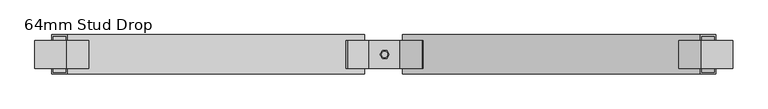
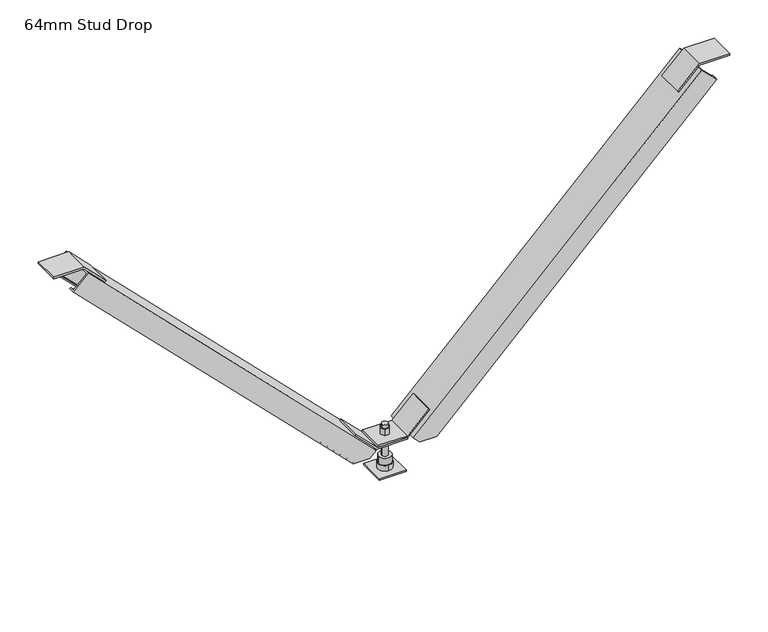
"""IFC4 building model written with IfcOpenShell, lengths in millimetres: beam geometry, Vertibrace Standard Brace : 64mm Stud Drop."""

from ifc_helpers import new_model, si_unit, frame, origin, origin_with_axes, place, context, project, spatial, polyline, circle_curve, outline, extrude, faceted_brep, source, transform, mapped, element, save
from ifc_brep_helpers import plane_surface, cylinder_surface, advanced_brep


def beam_64mm_stud_drop_5261cdfa(model_context):
    return source(origin(), model_context, "Body", "SolidModel", [
        extrude(outline(polyline([(547.0013294, 513.8434194), (547.0013294, 563.8278886), (550.0, 563.8278886), (550.0, 512.6013294), (513.7773526, 476.378682), (511.6569723, 478.4990623), (547.0013294, 513.8434194)])), frame((0.0, -22.5, 0.0), z_axis=(0.0, 1.0, 0.0), x_axis=(0.0, 0.0, 1.0)), (0.0, 0.0, 1.0), 45.0),
        extrude(outline(polyline([(547.0013294, -516.535654), (511.6569723, -481.1912969), (513.7773526, -479.0709166), (550.0, -515.293564), (550.0, -566.5201232), (547.0013294, -566.5201232), (547.0013294, -516.535654)])), frame((0.0, -22.5, 0.0), z_axis=(0.0, 1.0, 0.0), x_axis=(0.0, 0.0, 1.0)), (0.0, 0.0, 1.0), 45.0),
        extrude(outline(polyline([(62.6986706, 24.9922346), (62.6986706, -24.9922346), (59.7, -24.9922346), (59.7, 26.2343246), (95.9226474, 62.456972), (98.0430277, 60.3365917), (62.6986706, 24.9922346)])), frame((0.0, -22.5, 0.0), z_axis=(0.0, 1.0, 0.0), x_axis=(0.0, 0.0, 1.0)), (0.0, 0.0, 1.0), 45.0),
        extrude(outline(polyline([(59.6986706, -24.9922346), (95.0430277, -60.3365917), (92.9226474, -62.456972), (56.7, -26.2343246), (56.7, 24.9922346), (59.6986706, 24.9922346), (59.6986706, -24.9922346)])), frame((0.0, -22.5, 0.0), z_axis=(0.0, 1.0, 0.0), x_axis=(0.0, 0.0, 1.0)), (0.0, 0.0, 1.0), 45.0),
        extrude(outline(polyline([(22.5, 22.5), (22.5, -22.5), (-22.5, -22.5), (-22.5, 22.5), (22.5, 22.5)])), origin_with_axes(), (0.0, 0.0, 1.0), 3.0),
        advanced_brep(
        [(-5.0, 0.0, -10.0), (5.0, 0.0, -10.0), (-5.0, 0.0, 80.0), (5.0, 0.0, 80.0), (5.0, 0.0, 3.0), (-5.0, 0.0, 3.0), (-5.0, 0.0, 74.4), (5.0, 0.0, 74.4), (-5.0, 0.0, 25.0), (5.0, 0.0, 25.0), (5.0, 0.0, 50.0), (-5.0, 0.0, 50.0), (5.0, 0.0, 62.7), (-5.0, 0.0, 62.7), (-5.0, 0.0, 56.7), (5.0, 0.0, 56.7), (-10.5, 0.0, 25.0), (10.5, 0.0, 25.0), (-10.5, 0.0, 13.0), (10.5, 0.0, 13.0), (0.0, -12.0, 13.0), (0.0, 12.0, 13.0), (3.75, 6.4951905, 74.4), (-3.75, 6.4951905, 74.4), (-7.5, 0.0, 74.4), (-3.75, -6.4951905, 74.4), (3.75, -6.4951905, 74.4), (7.5, 0.0, 74.4), (3.75, 6.4951905, 62.7), (7.5, 0.0, 62.7), (3.75, -6.4951905, 62.7), (-3.75, -6.4951905, 62.7), (-7.5, 0.0, 62.7), (-3.75, 6.4951905, 62.7), (-10.9696551, 0.0, 56.7), (-5.4848276, -9.5, 56.7), (5.4848276, -9.5, 56.7), (10.9696551, 0.0, 56.7), (5.4848276, 9.5, 56.7), (-5.4848276, 9.5, 56.7), (-10.9696551, 0.0, 50.0), (-5.4848276, 9.5, 50.0), (5.4848276, 9.5, 50.0), (10.9696551, 0.0, 50.0), (5.4848276, -9.5, 50.0), (-5.4848276, -9.5, 50.0), (0.0, -12.0, 3.0), (0.0, 12.0, 3.0)],
        [
            (0, 1, circle_curve(frame((0.0, 0.0, -10.0), z_axis=(0.0, 0.0, -1.0), x_axis=(1.0, 0.0, 0.0)), 5.0)),
            (1, 0, circle_curve(frame((0.0, 0.0, -10.0), z_axis=(0.0, 0.0, -1.0), x_axis=(1.0, 0.0, 0.0)), 5.0)),
            (2, 3, circle_curve(frame((0.0, 0.0, 80.0), z_axis=(0.0, 0.0, 1.0), x_axis=(1.0, 0.0, 0.0)), 5.0)),
            (3, 2, circle_curve(frame((0.0, 0.0, 80.0), z_axis=(0.0, 0.0, 1.0), x_axis=(1.0, 0.0, 0.0)), 5.0)),
            (1, 4),
            (4, 5, circle_curve(frame((0.0, 0.0, 3.0), z_axis=(0.0, 0.0, -1.0), x_axis=(1.0, 0.0, 0.0)), 5.0)),
            (5, 0),
            (2, 6),
            (6, 7, circle_curve(frame((0.0, 0.0, 74.4), z_axis=(0.0, 0.0, 1.0), x_axis=(1.0, 0.0, 0.0)), 5.0)),
            (7, 3),
            (8, 9, circle_curve(frame((0.0, 0.0, 25.0), z_axis=(0.0, 0.0, 1.0), x_axis=(1.0, 0.0, 0.0)), 5.0)),
            (9, 10),
            (10, 11, circle_curve(frame((0.0, 0.0, 50.0), z_axis=(0.0, 0.0, -1.0), x_axis=(1.0, 0.0, 0.0)), 5.0)),
            (11, 8),
            (12, 13, circle_curve(frame((0.0, 0.0, 62.7), z_axis=(0.0, 0.0, -1.0), x_axis=(1.0, 0.0, 0.0)), 5.0)),
            (13, 14),
            (14, 15, circle_curve(frame((0.0, 0.0, 56.7), z_axis=(0.0, 0.0, 1.0), x_axis=(1.0, 0.0, 0.0)), 5.0)),
            (15, 12),
            (5, 4, circle_curve(frame((0.0, 0.0, 3.0), z_axis=(0.0, 0.0, -1.0), x_axis=(1.0, 0.0, 0.0)), 5.0)),
            (7, 6, circle_curve(frame((0.0, 0.0, 74.4), z_axis=(0.0, 0.0, 1.0), x_axis=(1.0, 0.0, 0.0)), 5.0)),
            (9, 8, circle_curve(frame((0.0, 0.0, 25.0), z_axis=(0.0, 0.0, 1.0), x_axis=(1.0, 0.0, 0.0)), 5.0)),
            (11, 10, circle_curve(frame((0.0, 0.0, 50.0), z_axis=(0.0, 0.0, -1.0), x_axis=(1.0, 0.0, 0.0)), 5.0)),
            (13, 12, circle_curve(frame((0.0, 0.0, 62.7), z_axis=(0.0, 0.0, -1.0), x_axis=(1.0, 0.0, 0.0)), 5.0)),
            (15, 14, circle_curve(frame((0.0, 0.0, 56.7), z_axis=(0.0, 0.0, 1.0), x_axis=(1.0, 0.0, 0.0)), 5.0)),
            (16, 17, circle_curve(frame((0.0, 0.0, 25.0), z_axis=(0.0, 0.0, 1.0), x_axis=(1.0, 0.0, 0.0)), 10.5)),
            (17, 16, circle_curve(frame((0.0, 0.0, 25.0), z_axis=(0.0, 0.0, 1.0), x_axis=(1.0, 0.0, 0.0)), 10.5)),
            (16, 18),
            (18, 19, circle_curve(frame((0.0, 0.0, 13.0), z_axis=(0.0, 0.0, 1.0), x_axis=(1.0, 0.0, 0.0)), 10.5)),
            (19, 17),
            (19, 18, circle_curve(frame((0.0, 0.0, 13.0), z_axis=(0.0, 0.0, 1.0), x_axis=(1.0, 0.0, 0.0)), 10.5)),
            (20, 21, circle_curve(frame((0.0, 0.0, 13.0), z_axis=(0.0, 0.0, 1.0), x_axis=(0.0, 1.0, 0.0)), 12.0)),
            (21, 20, circle_curve(frame((0.0, 0.0, 13.0), z_axis=(0.0, 0.0, 1.0), x_axis=(0.0, 1.0, 0.0)), 12.0)),
            (22, 23),
            (23, 24),
            (24, 25),
            (25, 26),
            (26, 27),
            (27, 22),
            (28, 29),
            (29, 30),
            (30, 31),
            (31, 32),
            (32, 33),
            (33, 28),
            (22, 28),
            (33, 23),
            (32, 24),
            (31, 25),
            (30, 26),
            (29, 27),
            (34, 35),
            (35, 36),
            (36, 37),
            (37, 38),
            (38, 39),
            (39, 34),
            (40, 41),
            (41, 42),
            (42, 43),
            (43, 44),
            (44, 45),
            (45, 40),
            (34, 40),
            (45, 35),
            (44, 36),
            (43, 37),
            (42, 38),
            (41, 39),
            (46, 47, circle_curve(frame((0.0, 0.0, 3.0), z_axis=(0.0, 0.0, -1.0), x_axis=(0.0, 1.0, 0.0)), 12.0)),
            (47, 46, circle_curve(frame((0.0, 0.0, 3.0), z_axis=(0.0, 0.0, -1.0), x_axis=(0.0, 1.0, 0.0)), 12.0)),
            (47, 21),
            (20, 46),
        ],
        [
            plane_surface(frame((5.0, 0.0, -10.0), z_axis=(0.0, 0.0, -1.0), x_axis=(0.0, -1.0, 0.0))),
            plane_surface(frame((5.0, 0.0, 80.0), z_axis=(0.0, 0.0, 1.0), x_axis=(0.0, 1.0, 0.0))),
            cylinder_surface(frame((0.0, 0.0, -10.0), z_axis=(0.0, 0.0, 1.0), x_axis=(1.0, 0.0, 0.0)), 5.0),
            plane_surface(frame((10.5, 0.0, 25.0), z_axis=(0.0, 0.0, 1.0), x_axis=(0.0, 1.0, 0.0))),
            cylinder_surface(frame((0.0, 0.0, 13.0), z_axis=(0.0, 0.0, 1.0), x_axis=(1.0, 0.0, 0.0)), 10.5),
            plane_surface(frame((0.0, 12.0, 13.0), z_axis=(0.0, 0.0, 1.0), x_axis=(-1.0, 0.0, 0.0))),
            plane_surface(frame((3.75, 6.4951905, 74.4), z_axis=(0.0, 0.0, 1.0), x_axis=(-1.0, 0.0, 0.0))),
            plane_surface(frame((3.75, 6.4951905, 62.7), z_axis=(0.0, 0.0, -1.0), x_axis=(1.0, 0.0, 0.0))),
            plane_surface(frame((3.75, 6.4951905, 74.4), z_axis=(0.0, 1.0, 0.0), x_axis=(0.0, 0.0, -1.0))),
            plane_surface(frame((-3.75, 6.4951905, 74.4), z_axis=(-0.866025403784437, 0.5000000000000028, 0.0), x_axis=(0.0, 0.0, -1.0))),
            plane_surface(frame((-7.5, 0.0, 74.4), z_axis=(-0.8660254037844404, -0.4999999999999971, 0.0), x_axis=(0.0, 0.0, -1.0))),
            plane_surface(frame((-3.75, -6.4951905, 74.4), z_axis=(0.0, -1.0, 0.0), x_axis=(0.0, 0.0, -1.0))),
            plane_surface(frame((3.75, -6.4951905, 74.4), z_axis=(0.8660254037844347, -0.500000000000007, 0.0), x_axis=(0.0, 0.0, -1.0))),
            plane_surface(frame((7.5, 0.0, 74.4), z_axis=(0.8660254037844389, 0.49999999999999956, 0.0), x_axis=(0.0, 0.0, -1.0))),
            plane_surface(frame((-10.9696551, 0.0, 56.7), z_axis=(0.0, 0.0, 1.0), x_axis=(0.49999999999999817, -0.8660254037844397, 0.0))),
            plane_surface(frame((-10.9696551, 0.0, 50.0), z_axis=(0.0, 0.0, -1.0), x_axis=(-0.49999999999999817, 0.8660254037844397, 0.0))),
            plane_surface(frame((-10.9696551, 0.0, 56.7), z_axis=(-0.8660254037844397, -0.49999999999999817, 0.0), x_axis=(0.0, 0.0, -1.0))),
            plane_surface(frame((-5.4848276, -9.5, 56.7), z_axis=(0.0, -1.0, 0.0), x_axis=(0.0, 0.0, -1.0))),
            plane_surface(frame((5.4848276, -9.5, 56.7), z_axis=(0.8660254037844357, -0.5000000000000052, 0.0), x_axis=(0.0, 0.0, -1.0))),
            plane_surface(frame((10.9696551, 0.0, 56.7), z_axis=(0.8660254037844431, 0.49999999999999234, 0.0), x_axis=(0.0, 0.0, -1.0))),
            plane_surface(frame((5.4848276, 9.5, 56.7), z_axis=(0.0, 1.0, 0.0), x_axis=(0.0, 0.0, -1.0))),
            plane_surface(frame((-5.4848276, 9.5, 56.7), z_axis=(-0.866025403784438, 0.5000000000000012, 0.0), x_axis=(0.0, 0.0, -1.0))),
            plane_surface(frame((0.0, 12.0, 3.0), z_axis=(0.0, 0.0, -1.0), x_axis=(1.0, 0.0, 0.0))),
            cylinder_surface(frame((0.0, 0.0, 3.0), z_axis=(0.0, 0.0, 1.0), x_axis=(0.0, 1.0, 0.0)), 12.0),
        ],
        [
            (0, [[1, 2]]),
            (1, [[3, 4]]),
            (2, [[-2, 5, 6, 7]]),
            (2, [[-3, 8, 9, 10]]),
            (2, [[11, 12, 13, 14]]),
            (2, [[15, 16, 17, 18]]),
            (2, [[-1, -7, 19, -5]]),
            (2, [[-4, -10, 20, -8]]),
            (2, [[21, -14, 22, -12]]),
            (2, [[23, -18, 24, -16]]),
            (3, [[25, 26], [-11, -21]]),
            (4, [[-25, 27, 28, 29]]),
            (4, [[-26, -29, 30, -27]]),
            (5, [[31, 32], [-28, -30]]),
            (6, [[33, 34, 35, 36, 37, 38], [-9, -20]]),
            (7, [[39, 40, 41, 42, 43, 44], [-15, -23]]),
            (8, [[-33, 45, -44, 46]]),
            (9, [[-34, -46, -43, 47]]),
            (10, [[-35, -47, -42, 48]]),
            (11, [[-36, -48, -41, 49]]),
            (12, [[-37, -49, -40, 50]]),
            (13, [[-38, -50, -39, -45]]),
            (14, [[51, 52, 53, 54, 55, 56], [-17, -24]]),
            (15, [[57, 58, 59, 60, 61, 62], [-13, -22]]),
            (16, [[-51, 63, -62, 64]]),
            (17, [[-52, -64, -61, 65]]),
            (18, [[-53, -65, -60, 66]]),
            (19, [[-54, -66, -59, 67]]),
            (20, [[-55, -67, -58, 68]]),
            (21, [[-56, -68, -57, -63]]),
            (22, [[69, 70], [-6, -19]]),
            (23, [[-70, 71, -31, 72]]),
            (23, [[-69, -72, -32, -71]]),
        ],
    ),
        faceted_brep([(39.9343246, 30.0, 52.0), (39.9343246, 32.0, 52.0), (68.0317993, 32.0, 52.0), (68.0317993, 22.0, 52.0), (65.2033722, 22.0, 52.0), (65.2033722, 30.0, 52.0), (39.9343246, -32.0, 52.0), (39.9343246, -30.0, 52.0), (65.2033722, -30.0, 52.0), (65.2033722, -22.0, 52.0), (68.0317993, -22.0, 52.0), (68.0317993, -32.0, 52.0), (30.6485382, 30.0, 61.2857864), (30.6485382, -30.0, 61.2857864), (29.2343246, -32.0, 62.7), (29.2343246, 32.0, 62.7), (511.5343246, 32.0, 545.0), (511.5343246, -32.0, 545.0), (536.283062, -32.0, 520.2512627), (536.283062, -22.0, 520.2512627), (534.8688484, -22.0, 521.6654762), (534.8688484, -30.0, 521.6654762), (512.9485382, -30.0, 543.5857864), (512.9485382, 30.0, 543.5857864), (534.8688484, 30.0, 521.6654762), (534.8688484, 22.0, 521.6654762), (536.283062, 22.0, 520.2512627), (536.283062, 32.0, 520.2512627)], [[[0, 1, 2, 3, 4, 5]], [[6, 7, 8, 9, 10, 11]], [[12, 13, 7, 6, 14, 15, 1, 0]], [[16, 17, 18, 19, 20, 21, 22, 23, 24, 25, 26, 27]], [[16, 27, 2, 1, 15]], [[27, 26, 3, 2]], [[26, 25, 4, 3]], [[25, 24, 5, 4]], [[24, 23, 12, 0, 5]], [[13, 12, 23, 22]], [[22, 21, 8, 7, 13]], [[21, 20, 9, 8]], [[20, 19, 10, 9]], [[19, 18, 11, 10]], [[18, 17, 14, 6, 11]], [[15, 14, 17, 16]]]),
        faceted_brep([(-33.9485382, -30.0, 61.5857864), (-33.9485382, 30.0, 61.5857864), (-43.5343246, 30.0, 52.0), (-43.5343246, 32.0, 52.0), (-32.5343246, 32.0, 63.0), (-32.5343246, -32.0, 63.0), (-43.5343246, -32.0, 52.0), (-43.5343246, -30.0, 52.0), (-514.4883773, -32.0, 544.9540527), (-514.4883773, 32.0, 544.9540527), (-539.2371147, 32.0, 520.2053154), (-539.2371147, 22.0, 520.2053154), (-537.8229011, 22.0, 521.6195289), (-537.8229011, 30.0, 521.6195289), (-515.9025909, 30.0, 543.5398392), (-515.9025909, -30.0, 543.5398392), (-537.8229011, -30.0, 521.6195289), (-537.8229011, -22.0, 521.6195289), (-539.2371147, -22.0, 520.2053154), (-539.2371147, -32.0, 520.2053154), (-71.0317993, -32.0, 52.0), (-71.0317993, -22.0, 52.0), (-71.0317993, 32.0, 52.0), (-68.2033722, 30.0, 52.0), (-68.2033722, 22.0, 52.0), (-71.0317993, 22.0, 52.0), (-68.2033722, -22.0, 52.0), (-68.2033722, -30.0, 52.0)], [[[0, 1, 2, 3, 4, 5, 6, 7]], [[8, 9, 10, 11, 12, 13, 14, 15, 16, 17, 18, 19]], [[8, 19, 20, 6, 5]], [[19, 18, 21, 20]], [[10, 9, 4, 3, 22]], [[5, 4, 9, 8]], [[3, 2, 23, 24, 25, 22]], [[7, 6, 20, 21, 26, 27]], [[18, 17, 26, 21]], [[17, 16, 27, 26]], [[16, 15, 0, 7, 27]], [[1, 0, 15, 14]], [[14, 13, 23, 2, 1]], [[13, 12, 24, 23]], [[12, 11, 25, 24]], [[11, 10, 22, 25]]]),
    ])


if __name__ == "__main__":
    model = new_model("IFC4")
    model_context = context("Model", 3, world=origin())
    ifc_project = project(units=[si_unit("LENGTHUNIT", "METRE", prefix="MILLI")], contexts=[model_context])
    site = spatial("IfcSite", under=ifc_project)
    building = spatial("IfcBuilding", under=site)
    placement = place(None, origin())
    beam_64mm_stud_drop_shape = beam_64mm_stud_drop_5261cdfa(model_context)
    element("IfcBeam", 1, ObjectType="Vertibrace Standard Brace : 64mm Stud Drop", at=placement, inside=building, context=model_context, shape_type="MappedRepresentation", body=[
        mapped(beam_64mm_stud_drop_shape, transform((0.0, 0.0, 0.0), x_axis=(1.0, 0.0, 0.0), y_axis=(0.0, 1.0, 0.0), z_axis=(0.0, 0.0, 1.0))),
    ])
    save(model, "model.ifc")
